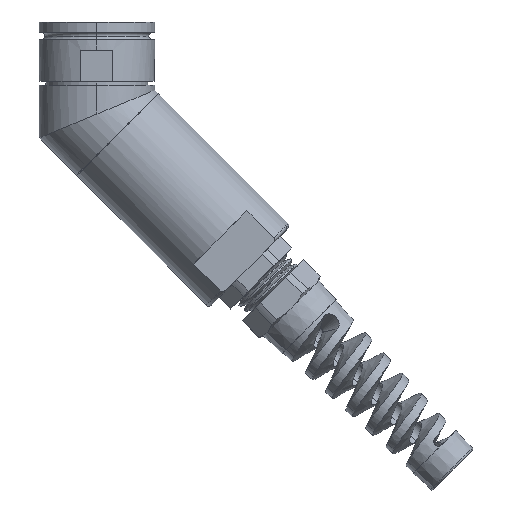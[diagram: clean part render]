
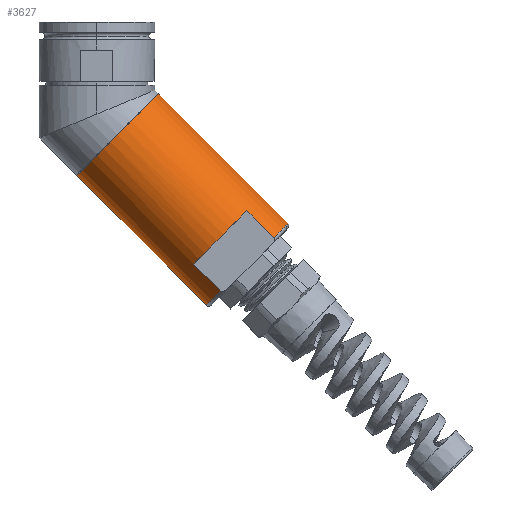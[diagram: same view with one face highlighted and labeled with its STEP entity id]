
A CAD part, left-side view. The second image highlights one B-rep face of the part: STEP entity #3627.
In plain terms, the highlighted cylindrical face has radius 17.691 mm (diameter 35.382 mm), a partial arc.
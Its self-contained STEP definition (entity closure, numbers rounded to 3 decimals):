
#3 = AXIS2_PLACEMENT_3D ( 'NONE', #5667, #15464, #4570 ) ;
#9 = ORIENTED_EDGE ( 'NONE', *, *, #5952, .T. ) ;
#183 = CARTESIAN_POINT ( 'NONE',  ( 0., 6.16, -41.426 ) ) ;
#423 = DIRECTION ( 'NONE',  ( 0., 0.707, 0.707 ) ) ;
#526 = EDGE_CURVE ( 'NONE', #3659, #9555, #7035, .T. ) ;
#576 = VECTOR ( 'NONE', #13811, 1000. ) ;
#839 = DIRECTION ( 'NONE',  ( 0., 0.707, 0.707 ) ) ;
#1515 = DIRECTION ( 'NONE',  ( 0., -0.707, 0.707 ) ) ;
#1745 = CARTESIAN_POINT ( 'NONE',  ( 0., -37.816, -60.384 ) ) ;
#2131 = EDGE_CURVE ( 'NONE', #14380, #9555, #6440, .T. ) ;
#2290 = CARTESIAN_POINT ( 'NONE',  ( -13.399, -29.647, -68.552 ) ) ;
#2529 = ORIENTED_EDGE ( 'NONE', *, *, #9316, .F. ) ;
#2774 = VERTEX_POINT ( 'NONE', #9212 ) ;
#2943 = ORIENTED_EDGE ( 'NONE', *, *, #526, .T. ) ;
#3213 = AXIS2_PLACEMENT_3D ( 'NONE', #1745, #14961, #1515 ) ;
#3627 = ADVANCED_FACE ( 'NONE', ( #12043 ), #8294, .T. ) ;
#3659 = VERTEX_POINT ( 'NONE', #14582 ) ;
#4223 = AXIS2_PLACEMENT_3D ( 'NONE', #13309, #5017, #13153 ) ;
#4348 = CARTESIAN_POINT ( 'NONE',  ( 0., -33.568, -81.155 ) ) ;
#4447 = EDGE_LOOP ( 'NONE', ( #11538, #9, #2529, #12352, #8558, #11300, #2943, #6122 ) ) ;
#4570 = DIRECTION ( 'NONE',  ( 0., -0.707, 0.707 ) ) ;
#4948 = CARTESIAN_POINT ( 'NONE',  ( 0., -46.078, -68.646 ) ) ;
#5017 = DIRECTION ( 'NONE',  ( 0., 0.707, 0.707 ) ) ;
#5667 = CARTESIAN_POINT ( 'NONE',  ( 0., -6.349, -28.917 ) ) ;
#5683 = DIRECTION ( 'NONE',  ( 0., -0.707, 0.707 ) ) ;
#5952 = EDGE_CURVE ( 'NONE', #8507, #12854, #6927, .T. ) ;
#6122 = ORIENTED_EDGE ( 'NONE', *, *, #2131, .F. ) ;
#6388 = VECTOR ( 'NONE', #423, 1000. ) ;
#6440 = CIRCLE ( 'NONE', #15347, 17.691 ) ;
#6927 = CIRCLE ( 'NONE', #8207, 17.691 ) ;
#7035 = LINE ( 'NONE', #11840, #13335 ) ;
#7079 = CARTESIAN_POINT ( 'NONE',  ( -13.399, -29.647, -68.552 ) ) ;
#8067 = LINE ( 'NONE', #10379, #576 ) ;
#8177 = LINE ( 'NONE', #2290, #11909 ) ;
#8207 = AXIS2_PLACEMENT_3D ( 'NONE', #4948, #8697, #9809 ) ;
#8286 = CIRCLE ( 'NONE', #3213, 17.691 ) ;
#8294 = CYLINDRICAL_SURFACE ( 'NONE', #3, 17.691 ) ;
#8507 = VERTEX_POINT ( 'NONE', #4348 ) ;
#8558 = ORIENTED_EDGE ( 'NONE', *, *, #15368, .T. ) ;
#8670 = EDGE_CURVE ( 'NONE', #8507, #14380, #12529, .T. ) ;
#8697 = DIRECTION ( 'NONE',  ( 0., 0.707, 0.707 ) ) ;
#9212 = CARTESIAN_POINT ( 'NONE',  ( -13.399, -54.246, -60.477 ) ) ;
#9316 = EDGE_CURVE ( 'NONE', #14162, #12854, #8177, .T. ) ;
#9555 = VERTEX_POINT ( 'NONE', #14527 ) ;
#9809 = DIRECTION ( 'NONE',  ( 0., -0.707, 0.707 ) ) ;
#10068 = CARTESIAN_POINT ( 'NONE',  ( -13.399, -45.985, -52.215 ) ) ;
#10073 = CIRCLE ( 'NONE', #4223, 17.691 ) ;
#10186 = CARTESIAN_POINT ( 'NONE',  ( 0., 6.16, -41.426 ) ) ;
#10379 = CARTESIAN_POINT ( 'NONE',  ( -13.399, -45.985, -52.215 ) ) ;
#10411 = VERTEX_POINT ( 'NONE', #10068 ) ;
#11300 = ORIENTED_EDGE ( 'NONE', *, *, #14184, .T. ) ;
#11538 = ORIENTED_EDGE ( 'NONE', *, *, #8670, .F. ) ;
#11840 = CARTESIAN_POINT ( 'NONE',  ( 0., -18.859, -16.407 ) ) ;
#11909 = VECTOR ( 'NONE', #13046, 1000. ) ;
#12043 = FACE_OUTER_BOUND ( 'NONE', #4447, .T. ) ;
#12352 = ORIENTED_EDGE ( 'NONE', *, *, #14312, .F. ) ;
#12529 = LINE ( 'NONE', #183, #6388 ) ;
#12775 = CARTESIAN_POINT ( 'NONE',  ( 0., -6.349, -28.917 ) ) ;
#12854 = VERTEX_POINT ( 'NONE', #14984 ) ;
#13046 = DIRECTION ( 'NONE',  ( 0., -0.707, -0.707 ) ) ;
#13153 = DIRECTION ( 'NONE',  ( 0., -0.707, 0.707 ) ) ;
#13309 = CARTESIAN_POINT ( 'NONE',  ( 0., -46.078, -68.646 ) ) ;
#13335 = VECTOR ( 'NONE', #14453, 1000. ) ;
#13811 = DIRECTION ( 'NONE',  ( 0., -0.707, -0.707 ) ) ;
#14162 = VERTEX_POINT ( 'NONE', #7079 ) ;
#14184 = EDGE_CURVE ( 'NONE', #2774, #3659, #10073, .T. ) ;
#14312 = EDGE_CURVE ( 'NONE', #10411, #14162, #8286, .T. ) ;
#14380 = VERTEX_POINT ( 'NONE', #10186 ) ;
#14453 = DIRECTION ( 'NONE',  ( 0., 0.707, 0.707 ) ) ;
#14527 = CARTESIAN_POINT ( 'NONE',  ( 0., -18.859, -16.407 ) ) ;
#14582 = CARTESIAN_POINT ( 'NONE',  ( 0., -58.587, -56.136 ) ) ;
#14961 = DIRECTION ( 'NONE',  ( 0., -0.707, -0.707 ) ) ;
#14984 = CARTESIAN_POINT ( 'NONE',  ( -13.399, -37.909, -76.814 ) ) ;
#15347 = AXIS2_PLACEMENT_3D ( 'NONE', #12775, #839, #5683 ) ;
#15368 = EDGE_CURVE ( 'NONE', #10411, #2774, #8067, .T. ) ;
#15464 = DIRECTION ( 'NONE',  ( 0., 0.707, 0.707 ) ) ;
